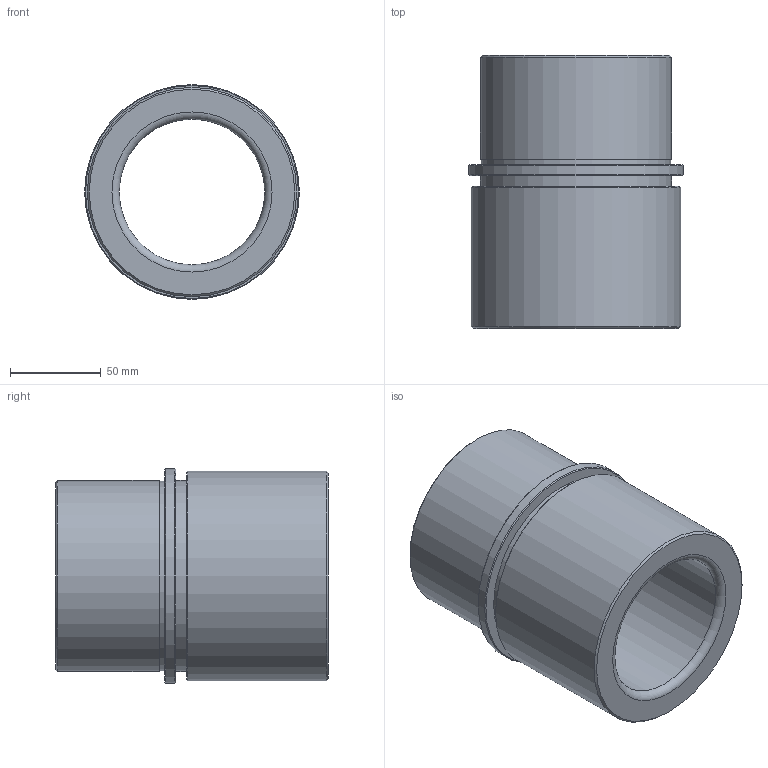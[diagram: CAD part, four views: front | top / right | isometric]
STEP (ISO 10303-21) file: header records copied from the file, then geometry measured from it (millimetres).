
FILE_DESCRIPTION( ( 'STEP AP203' ), '1' );
FILE_NAME( 'D:/Ýþlevler/Cuma/28 04 2010/D32_8015060.step', '2010-04-28T09:11:29', ( ' ' ), ( ' ' ), 'XStep 1.0', ' ', ' ' );
FILE_SCHEMA( ( 'CONFIG_CONTROL_DESIGN' ) );
Length unit declared in the file: metre
Products named in the file (1): 1
Bounding box: 118 x 150 x 118 mm (x, y, z)
Volume: 690567.7 mm3; surface area: 103887.8 mm2
Topology: 1 solids, 1 shells, 19 faces, 32 edges, 19 vertices
Faces by surface type: plane 6, cylinder 6, cone 5, torus 2
Full cylindrical faces by diameter (mm): 80 x1, 104 x1, 105 x2, 115 x1, 118 x1
Entity records: 433 total; most frequent: DIRECTION 78, CARTESIAN_POINT 58, AXIS2_PLACEMENT_3D 39, EDGE_LOOP 38, ORIENTED_EDGE 38, FACE_OUTER_BOUND 27, ADVANCED_FACE 19, EDGE_CURVE 19
